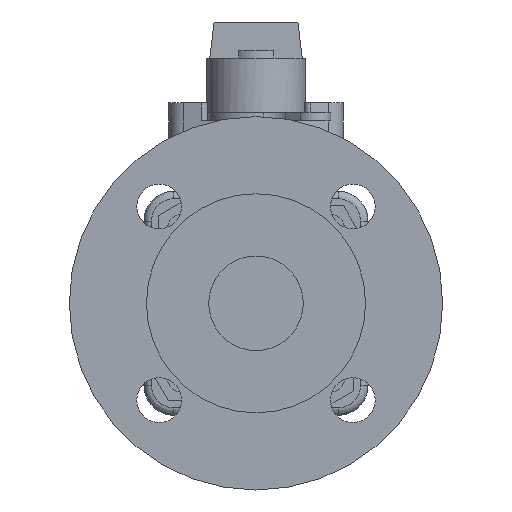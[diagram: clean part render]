
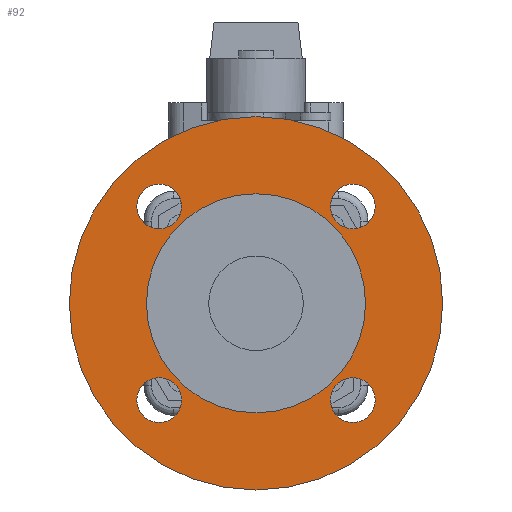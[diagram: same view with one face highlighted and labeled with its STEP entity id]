
A CAD part, left-side view. The second image highlights one B-rep face of the part: STEP entity #92.
In plain terms, the highlighted planar face has unit normal (-1, 0, 0).
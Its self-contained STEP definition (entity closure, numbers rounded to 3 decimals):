
#92=ADVANCED_FACE('',(#475,#476,#477,#478,#479,#480),#474,.T.);
#474=PLANE('',#2629);
#475=FACE_OUTER_BOUND('',#2630,.T.);
#476=FACE_BOUND('',#2631,.T.);
#477=FACE_BOUND('',#2632,.T.);
#478=FACE_BOUND('',#2633,.T.);
#479=FACE_BOUND('',#2634,.T.);
#480=FACE_BOUND('',#2635,.T.);
#2626=CARTESIAN_POINT('',(-99.2,-139.904,-160.));
#2627=DIRECTION('',(-1.,0.,0.));
#2628=DIRECTION('',(0.,0.,1.));
#2629=AXIS2_PLACEMENT_3D('',#2626,#2627,#2628);
#2630=EDGE_LOOP('',(#4184,#4185));
#2631=EDGE_LOOP('',(#4186,#4187));
#2632=EDGE_LOOP('',(#4188,#4189));
#2633=EDGE_LOOP('',(#4190,#4191));
#2634=EDGE_LOOP('',(#4192,#4193));
#2635=EDGE_LOOP('',(#4194,#4195));
#4184=ORIENTED_EDGE('',*,*,#5314,.T.);
#4185=ORIENTED_EDGE('',*,*,#5315,.T.);
#4186=ORIENTED_EDGE('',*,*,#5316,.F.);
#4187=ORIENTED_EDGE('',*,*,#5317,.F.);
#4188=ORIENTED_EDGE('',*,*,#5318,.F.);
#4189=ORIENTED_EDGE('',*,*,#5319,.F.);
#4190=ORIENTED_EDGE('',*,*,#5320,.F.);
#4191=ORIENTED_EDGE('',*,*,#5321,.F.);
#4192=ORIENTED_EDGE('',*,*,#5322,.F.);
#4193=ORIENTED_EDGE('',*,*,#5323,.F.);
#4194=ORIENTED_EDGE('',*,*,#5324,.F.);
#4195=ORIENTED_EDGE('',*,*,#5325,.F.);
#5314=EDGE_CURVE('',#6639,#6640,#6641,.T.);
#5315=EDGE_CURVE('',#6640,#6639,#6647,.T.);
#5316=EDGE_CURVE('',#6653,#6654,#6655,.T.);
#5317=EDGE_CURVE('',#6654,#6653,#6661,.T.);
#5318=EDGE_CURVE('',#6667,#6668,#6669,.T.);
#5319=EDGE_CURVE('',#6668,#6667,#6675,.T.);
#5320=EDGE_CURVE('',#6681,#6682,#6683,.T.);
#5321=EDGE_CURVE('',#6682,#6681,#6689,.T.);
#5322=EDGE_CURVE('',#6695,#6696,#6697,.T.);
#5323=EDGE_CURVE('',#6696,#6695,#6703,.T.);
#5324=EDGE_CURVE('',#6709,#6710,#6711,.T.);
#5325=EDGE_CURVE('',#6710,#6709,#6717,.T.);
#6639=VERTEX_POINT('',#10112);
#6640=VERTEX_POINT('',#10113);
#6641=CIRCLE('',#10117,75.);
#6647=CIRCLE('',#10121,75.);
#6653=VERTEX_POINT('',#10122);
#6654=VERTEX_POINT('',#10123);
#6655=CIRCLE('',#10127,9.);
#6661=CIRCLE('',#10131,9.);
#6667=VERTEX_POINT('',#10132);
#6668=VERTEX_POINT('',#10133);
#6669=CIRCLE('',#10137,9.);
#6675=CIRCLE('',#10141,9.);
#6681=VERTEX_POINT('',#10142);
#6682=VERTEX_POINT('',#10143);
#6683=CIRCLE('',#10147,9.);
#6689=CIRCLE('',#10151,9.);
#6695=VERTEX_POINT('',#10152);
#6696=VERTEX_POINT('',#10153);
#6697=CIRCLE('',#10157,9.);
#6703=CIRCLE('',#10161,9.);
#6709=VERTEX_POINT('',#10162);
#6710=VERTEX_POINT('',#10163);
#6711=CIRCLE('',#10167,44.);
#6717=CIRCLE('',#10171,44.);
#10112=CARTESIAN_POINT('',(-99.2,0.,75.));
#10113=CARTESIAN_POINT('',(-99.2,0.,-75.));
#10114=CARTESIAN_POINT('',(-99.2,0.,0.));
#10115=DIRECTION('',(-1.,0.,0.));
#10116=DIRECTION('',(0.,0.,1.));
#10117=AXIS2_PLACEMENT_3D('',#10114,#10115,#10116);
#10118=CARTESIAN_POINT('',(-99.2,0.,0.));
#10119=DIRECTION('',(-1.,0.,0.));
#10120=DIRECTION('',(0.,0.,1.));
#10121=AXIS2_PLACEMENT_3D('',#10118,#10119,#10120);
#10122=CARTESIAN_POINT('',(-99.2,38.891,-29.891));
#10123=CARTESIAN_POINT('',(-99.2,38.891,-47.891));
#10124=CARTESIAN_POINT('',(-99.2,38.891,-38.891));
#10125=DIRECTION('',(-1.,0.,0.));
#10126=DIRECTION('',(0.,0.,-1.));
#10127=AXIS2_PLACEMENT_3D('',#10124,#10125,#10126);
#10128=CARTESIAN_POINT('',(-99.2,38.891,-38.891));
#10129=DIRECTION('',(-1.,0.,0.));
#10130=DIRECTION('',(0.,0.,-1.));
#10131=AXIS2_PLACEMENT_3D('',#10128,#10129,#10130);
#10132=CARTESIAN_POINT('',(-99.2,-38.891,-47.891));
#10133=CARTESIAN_POINT('',(-99.2,-38.891,-29.891));
#10134=CARTESIAN_POINT('',(-99.2,-38.891,-38.891));
#10135=DIRECTION('',(-1.,0.,0.));
#10136=DIRECTION('',(0.,0.,1.));
#10137=AXIS2_PLACEMENT_3D('',#10134,#10135,#10136);
#10138=CARTESIAN_POINT('',(-99.2,-38.891,-38.891));
#10139=DIRECTION('',(-1.,0.,0.));
#10140=DIRECTION('',(0.,0.,1.));
#10141=AXIS2_PLACEMENT_3D('',#10138,#10139,#10140);
#10142=CARTESIAN_POINT('',(-99.2,-38.891,47.891));
#10143=CARTESIAN_POINT('',(-99.2,-38.891,29.891));
#10144=CARTESIAN_POINT('',(-99.2,-38.891,38.891));
#10145=DIRECTION('',(-1.,0.,0.));
#10146=DIRECTION('',(0.,0.,-1.));
#10147=AXIS2_PLACEMENT_3D('',#10144,#10145,#10146);
#10148=CARTESIAN_POINT('',(-99.2,-38.891,38.891));
#10149=DIRECTION('',(-1.,0.,0.));
#10150=DIRECTION('',(0.,0.,-1.));
#10151=AXIS2_PLACEMENT_3D('',#10148,#10149,#10150);
#10152=CARTESIAN_POINT('',(-99.2,38.891,29.891));
#10153=CARTESIAN_POINT('',(-99.2,38.891,47.891));
#10154=CARTESIAN_POINT('',(-99.2,38.891,38.891));
#10155=DIRECTION('',(-1.,0.,0.));
#10156=DIRECTION('',(0.,0.,1.));
#10157=AXIS2_PLACEMENT_3D('',#10154,#10155,#10156);
#10158=CARTESIAN_POINT('',(-99.2,38.891,38.891));
#10159=DIRECTION('',(-1.,0.,0.));
#10160=DIRECTION('',(0.,0.,1.));
#10161=AXIS2_PLACEMENT_3D('',#10158,#10159,#10160);
#10162=CARTESIAN_POINT('',(-99.2,0.,-44.));
#10163=CARTESIAN_POINT('',(-99.2,0.,44.));
#10164=CARTESIAN_POINT('',(-99.2,0.,0.));
#10165=DIRECTION('',(-1.,0.,0.));
#10166=DIRECTION('',(0.,0.,1.));
#10167=AXIS2_PLACEMENT_3D('',#10164,#10165,#10166);
#10168=CARTESIAN_POINT('',(-99.2,0.,0.));
#10169=DIRECTION('',(-1.,0.,0.));
#10170=DIRECTION('',(0.,0.,1.));
#10171=AXIS2_PLACEMENT_3D('',#10168,#10169,#10170);
